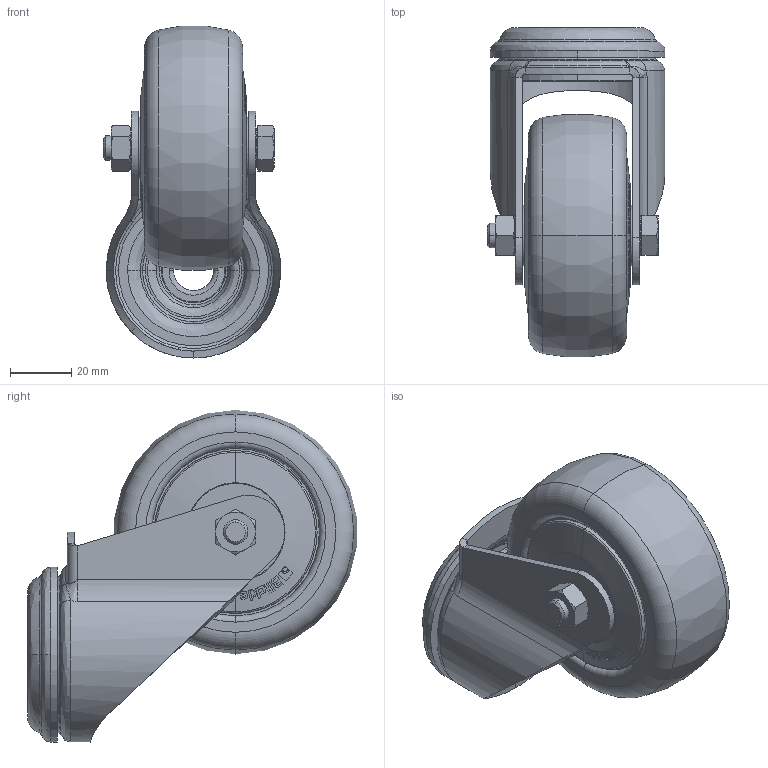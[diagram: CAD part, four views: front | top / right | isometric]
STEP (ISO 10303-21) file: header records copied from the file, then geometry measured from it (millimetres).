
FILE_DESCRIPTION (( 'STEP AP214' ), '1' );
FILE_NAME ('LKRXA-TPA_80KD-FK_574236-214.step', '2012-10-13T15:46:08', ( 'Matthias Senn' ), ( 'Blickle Räder+Rollen' ), 'SwSTEP 2.0', 'SolidWorks 2010', '' );
FILE_SCHEMA (( 'AUTOMOTIVE_DESIGN' ));
Length unit declared in the file: millimetre
Products named in the file (4): TPA-K-FK_G15_TPA_80_8KD-FK; GH-LKRXA_080-13_G15; AM_LKRXA_12x36_G_G15; LKRXA-TPA_80KD-FK_574236-214
Assembly tree (3 placements, depth 2):
  LKRXA-TPA_80KD-FK_574236-214
    GH-LKRXA_080-13_G15
    TPA-K-FK_G15_TPA_80_8KD-FK
    AM_LKRXA_12x36_G_G15
Bounding box: 58 x 107.54 x 108.33 mm (x, y, z)
Volume: 199413.9 mm3; surface area: 47114 mm2
Topology: 3 solids, 3 shells, 983 faces, 2552 edges, 1665 vertices
Faces by surface type: plane 500, bspline 312, cone 99, cylinder 46, torus 26
Entity records: 61541 total; most frequent: CARTESIAN_POINT 29579, ORIENTED_EDGE 5104, DIRECTION 3034, EDGE_CURVE 2552, VERTEX_POINT 1665, B_SPLINE_CURVE_WITH_KNOTS 1155, VECTOR 1078, LINE 1078
